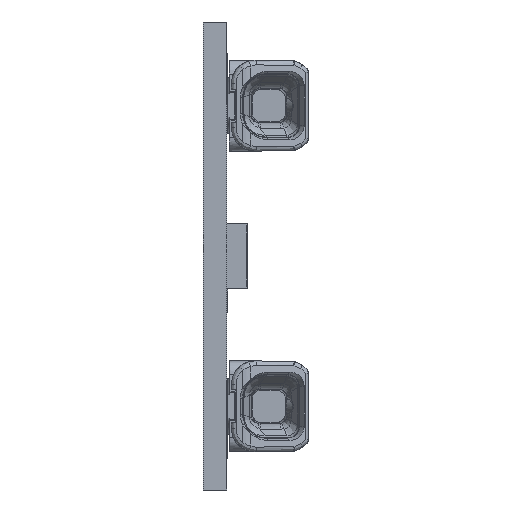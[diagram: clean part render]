
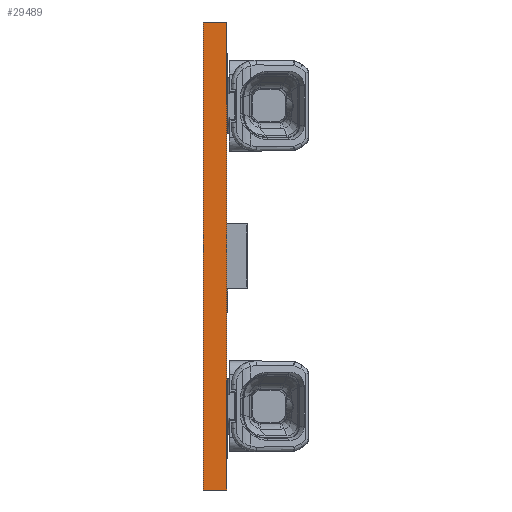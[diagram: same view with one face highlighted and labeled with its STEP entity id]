
A CAD part, left-side view. The second image highlights one B-rep face of the part: STEP entity #29489.
In plain terms, the highlighted planar face has unit normal (-1, 0, 0).
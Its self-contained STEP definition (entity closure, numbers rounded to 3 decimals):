
#2447=LINE('',#58880,#5444);
#2513=LINE('',#59053,#5510);
#2556=LINE('',#59138,#5553);
#2557=LINE('',#59140,#5554);
#5444=VECTOR('',#41341,1000.);
#5510=VECTOR('',#41449,1000.);
#5553=VECTOR('',#41576,1000.);
#5554=VECTOR('',#41579,1000.);
#7435=PLANE('',#36681);
#13667=ORIENTED_EDGE('',*,*,#19452,.F.);
#13668=ORIENTED_EDGE('',*,*,#19582,.F.);
#13669=ORIENTED_EDGE('',*,*,#19538,.T.);
#13670=ORIENTED_EDGE('',*,*,#19581,.T.);
#19452=EDGE_CURVE('',#22789,#22790,#2447,.T.);
#19538=EDGE_CURVE('',#22833,#22875,#2513,.T.);
#19581=EDGE_CURVE('',#22875,#22790,#2556,.T.);
#19582=EDGE_CURVE('',#22833,#22789,#2557,.T.);
#22789=VERTEX_POINT('',#58879);
#22790=VERTEX_POINT('',#58881);
#22833=VERTEX_POINT('',#58968);
#22875=VERTEX_POINT('',#59052);
#25786=EDGE_LOOP('',(#13667,#13668,#13669,#13670));
#27607=FACE_BOUND('',#25786,.T.);
#29489=ADVANCED_FACE('',(#27607),#7435,.T.);
#36681=AXIS2_PLACEMENT_3D('',#59139,#41577,#41578);
#41341=DIRECTION('',(0.,0.,-1.));
#41449=DIRECTION('',(0.,0.,-1.));
#41576=DIRECTION('',(0.,-1.,0.));
#41577=DIRECTION('',(-1.,0.,0.));
#41578=DIRECTION('',(0.,0.,1.));
#41579=DIRECTION('',(0.,-1.,0.));
#58879=CARTESIAN_POINT('',(-140.,0.,10.));
#58880=CARTESIAN_POINT('',(-140.,0.,10.));
#58881=CARTESIAN_POINT('',(-140.,0.,-10.));
#58968=CARTESIAN_POINT('',(-140.,1.,10.));
#59052=CARTESIAN_POINT('',(-140.,1.,-10.));
#59053=CARTESIAN_POINT('',(-140.,1.,10.));
#59138=CARTESIAN_POINT('',(-140.,1.,-10.));
#59139=CARTESIAN_POINT('',(-140.,1.,10.));
#59140=CARTESIAN_POINT('',(-140.,1.,10.));
